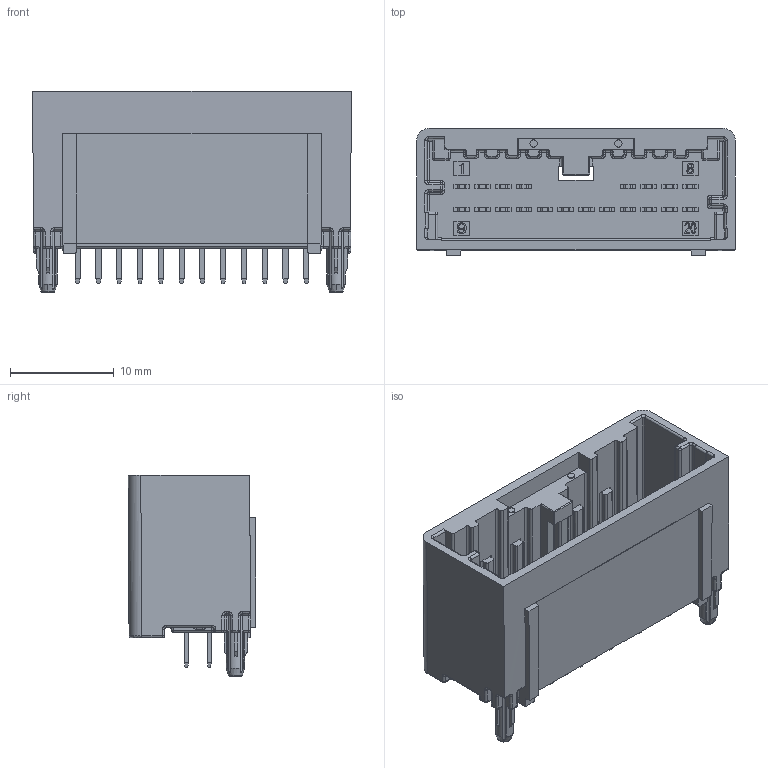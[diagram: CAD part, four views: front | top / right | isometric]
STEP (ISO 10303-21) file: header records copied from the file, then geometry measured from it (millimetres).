
FILE_DESCRIPTION((''),'2;1');
FILE_NAME('348250200','2020-11-13T',('gga'),(''),'PRO/ENGINEER BY PARAMETRIC TECHNOLOGY CORPORATION, 2016010','PRO/ENGINEER BY PARAMETRIC TECHNOLOGY CORPORATION, 2016010','');
FILE_SCHEMA(('CONFIG_CONTROL_DESIGN'));
Length unit declared in the file: millimetre
Products named in the file (1): 348250200
Bounding box: 30.63 x 12.24 x 19.33 mm (x, y, z)
Volume: 1941.2 mm3; surface area: 3763 mm2
Topology: 1 solids, 1 shells, 1558 faces, 3963 edges, 2344 vertices
Faces by surface type: plane 806, cylinder 482, sphere 117, bspline 110, extrusion 27, torus 12, cone 4
Entity records: 48102 total; most frequent: CARTESIAN_POINT 12388, ORIENTED_EDGE 7604, DIRECTION 6965, EDGE_CURVE 3802, VECTOR 2585, LINE 2558, VERTEX_POINT 2300, AXIS2_PLACEMENT_3D 2190
